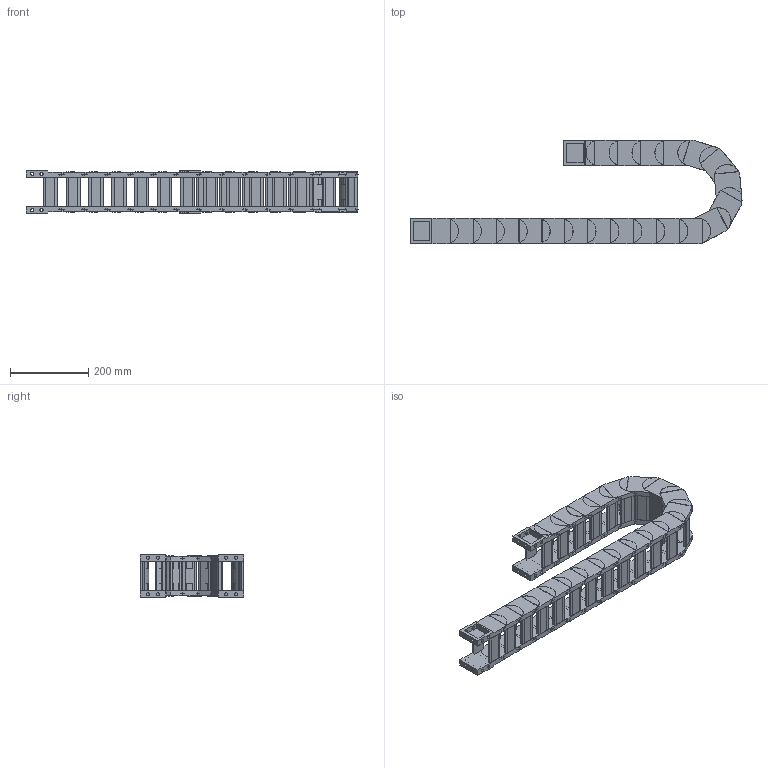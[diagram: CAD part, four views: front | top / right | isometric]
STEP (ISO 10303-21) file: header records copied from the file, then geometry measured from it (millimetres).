
FILE_DESCRIPTION((''),'2;1');
FILE_NAME('HD45-R100-ZPT_ASM','2022-06-20T19:45:56',('admin'),(''),'CREO PARAMETRIC BY PTC INC, 2021164','CREO PARAMETRIC BY PTC INC, 2021164','');
FILE_SCHEMA(('CONFIG_CONTROL_DESIGN','GEOMETRIC_VALIDATION_PROPERTIES_MIM'));
Length unit declared in the file: millimetre
Products named in the file (6): HD45-585; 45-500001; HD45_ASM; H45-T1-G; H45-T2-G; HD45-R100-ZPT_ASM
Assembly tree (26 placements, depth 3):
  HD45-R100-ZPT_ASM
    HD45_ASM  x20
      HD45-585
      45-500001
    H45-T1-G
    H45-T2-G
    45-500001  x2
Bounding box: 847.35 x 264.83 x 108.1 mm (x, y, z)
Volume: 3399312.9 mm3; surface area: 1187339.7 mm2
Topology: 88 solids, 88 shells, 1714 faces, 4586 edges, 3140 vertices
Faces by surface type: plane 1126, cylinder 588
Entity records: 8630 total; most frequent: CARTESIAN_POINT 1392, DIRECTION 1382, ORIENTED_EDGE 1276, EDGE_CURVE 638, AXIS2_PLACEMENT_3D 480, VERTEX_POINT 432, VECTOR 422, LINE 422
